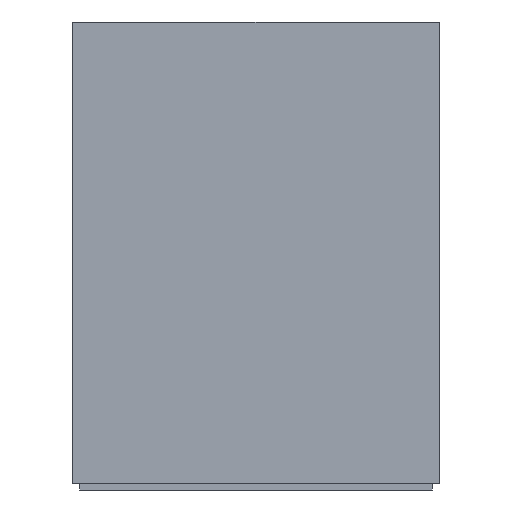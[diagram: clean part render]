
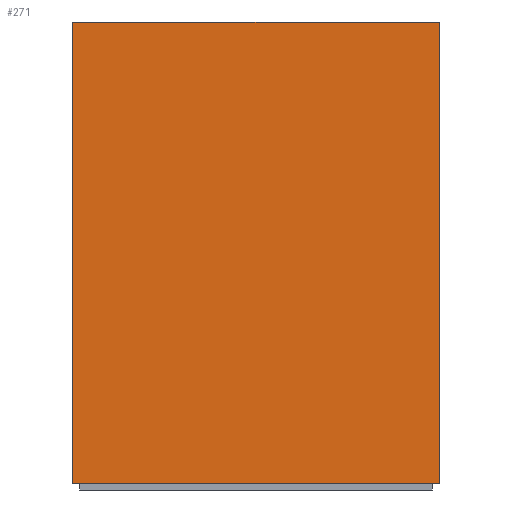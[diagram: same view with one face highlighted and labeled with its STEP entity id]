
A CAD part, front view. The second image highlights one B-rep face of the part: STEP entity #271.
In plain terms, the highlighted planar face has unit normal (0, -1, 0).
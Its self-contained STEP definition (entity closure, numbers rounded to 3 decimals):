
#271=ADVANCED_FACE('',(#389),#1771,.T.);
#389=FACE_OUTER_BOUND('',#509,.T.);
#509=EDGE_LOOP('',(#700,#701,#702,#703));
#700=ORIENTED_EDGE('',*,*,#1183,.T.);
#701=ORIENTED_EDGE('',*,*,#1185,.T.);
#702=ORIENTED_EDGE('',*,*,#1187,.T.);
#703=ORIENTED_EDGE('',*,*,#1189,.T.);
#1183=EDGE_CURVE('',#1602,#1603,#1443,.T.);
#1185=EDGE_CURVE('',#1603,#1604,#1445,.T.);
#1187=EDGE_CURVE('',#1604,#1605,#1447,.T.);
#1189=EDGE_CURVE('',#1605,#1602,#1449,.T.);
#1443=B_SPLINE_CURVE_WITH_KNOTS('',1,(#2604,#2605),.UNSPECIFIED.,.F.,.F.,
(2,2),(0.,900.),.UNSPECIFIED.);
#1445=B_SPLINE_CURVE_WITH_KNOTS('',1,(#2608,#2609),.UNSPECIFIED.,.F.,.F.,
(2,2),(0.,1134.),.UNSPECIFIED.);
#1447=B_SPLINE_CURVE_WITH_KNOTS('',1,(#2612,#2613),.UNSPECIFIED.,.F.,.F.,
(2,2),(0.,900.),.UNSPECIFIED.);
#1449=B_SPLINE_CURVE_WITH_KNOTS('',1,(#2616,#2617),.UNSPECIFIED.,.F.,.F.,
(2,2),(0.,1134.),.UNSPECIFIED.);
#1602=VERTEX_POINT('',#2590);
#1603=VERTEX_POINT('',#2591);
#1604=VERTEX_POINT('',#2592);
#1605=VERTEX_POINT('',#2593);
#1771=PLANE('',#1939);
#1939=AXIS2_PLACEMENT_3D('',#2585,#2130,$);
#2130=DIRECTION('',(0.,-1.,0.));
#2585=CARTESIAN_POINT('',(-35440.508,-17294.293,17.767));
#2590=CARTESIAN_POINT('',(-35440.508,-17294.293,17.767));
#2591=CARTESIAN_POINT('',(-34540.508,-17294.293,17.767));
#2592=CARTESIAN_POINT('',(-34540.508,-17294.293,1151.767));
#2593=CARTESIAN_POINT('',(-35440.508,-17294.293,1151.767));
#2604=CARTESIAN_POINT('',(-35440.508,-17294.293,17.767));
#2605=CARTESIAN_POINT('',(-34540.508,-17294.293,17.767));
#2608=CARTESIAN_POINT('',(-34540.508,-17294.293,17.767));
#2609=CARTESIAN_POINT('',(-34540.508,-17294.293,1151.767));
#2612=CARTESIAN_POINT('',(-34540.508,-17294.293,1151.767));
#2613=CARTESIAN_POINT('',(-35440.508,-17294.293,1151.767));
#2616=CARTESIAN_POINT('',(-35440.508,-17294.293,1151.767));
#2617=CARTESIAN_POINT('',(-35440.508,-17294.293,17.767));
